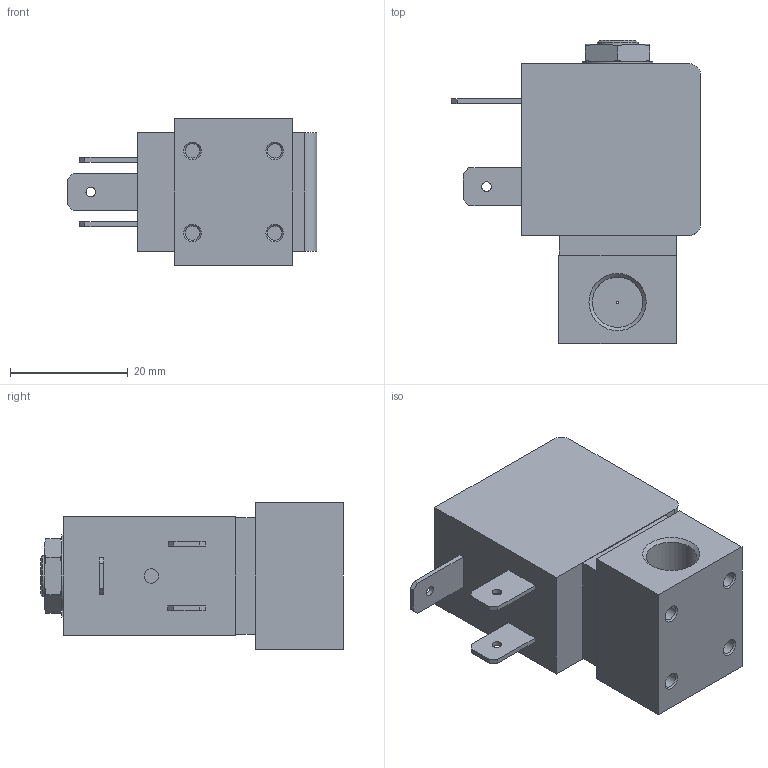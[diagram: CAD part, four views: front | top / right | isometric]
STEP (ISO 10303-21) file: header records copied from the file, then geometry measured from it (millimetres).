
FILE_DESCRIPTION(/* description */ ('STEP AP214'),/* implementation_level */ '2;1');
FILE_NAME(/* name */ '7011-00390040Plunger_valve_2_2_way_direct_acting',/* time_stamp */ '2025-05-18T14:15:15+02:00',/* author */ ('License CC BY-ND 4.0'),/* organization */ ('CADENAS'),/* preprocessor_version */ 'ST-DEVELOPER v19.3',/* originating_system */ 'PARTsolutions',/* authorisation */ ' ');
FILE_SCHEMA (('AUTOMOTIVE_DESIGN {1 0 10303 214 3 1 1}'));
Length unit declared in the file: millimetre
Products named in the file (1): 7011-00390040Plunger valve 2/2 way direct acting
Bounding box: 42.45 x 51.55 x 25 mm (x, y, z)
Volume: 26130.2 mm3; surface area: 7331.9 mm2
Topology: 1 solids, 1 shells, 113 faces, 264 edges, 170 vertices
Faces by surface type: plane 75, cylinder 19, cone 19
Full cylindrical faces by diameter (mm): 0.4 x1, 1.65 x3, 2.45 x1, 2.459 x4, 7 x1, 8.566 x2, 9 x1
Entity records: 3938 total; most frequent: CARTESIAN_POINT 598, DIRECTION 504, ORIENTED_EDGE 486, EDGE_CURVE 243, AXIS2_PLACEMENT_3D 171, VERTEX_POINT 169, LINE 162, VECTOR 162
